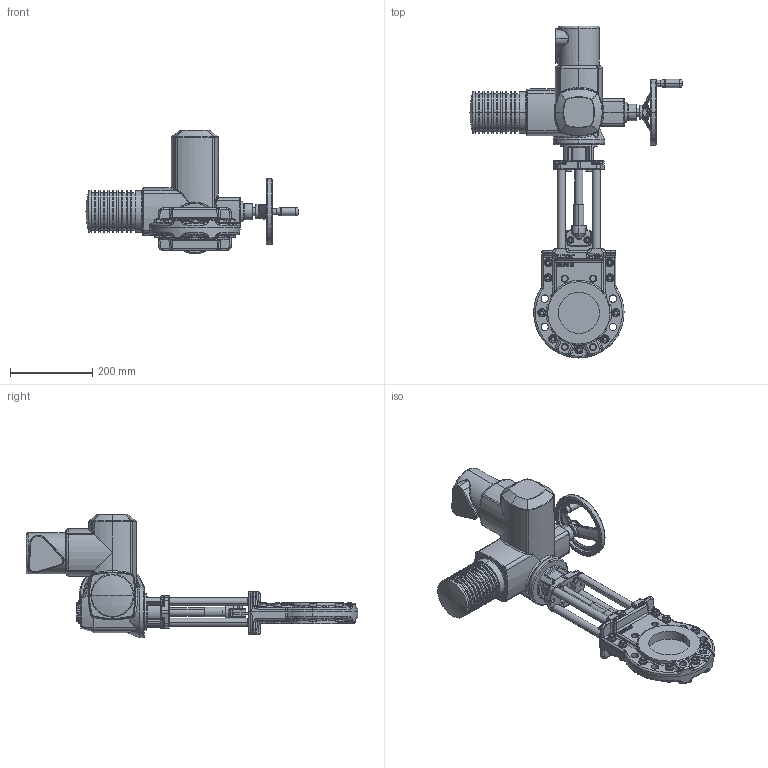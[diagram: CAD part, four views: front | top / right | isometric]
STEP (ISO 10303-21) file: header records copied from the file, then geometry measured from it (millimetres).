
FILE_DESCRIPTION (( 'STEP AP214' ), '1' );
FILE_NAME ('MGE DN 0100 PN10_16 (SA 07.2).STEP', '2015-09-23T08:38:25', ( 'admin' ), ( 'Hewlett-Packard Company' ), 'SwSTEP 2.0', 'SolidWorks 2013', '' );
FILE_SCHEMA (( 'AUTOMOTIVE_DESIGN' ));
Length unit declared in the file: millimetre
Products named in the file (1): MGE DN 0100 PN10_16 (SA 07.2)
Bounding box: 516 x 807.5 x 300.5 mm (x, y, z)
Volume: 9810062.1 mm3; surface area: 751442.9 mm2
Topology: 57 solids, 66 shells, 2841 faces, 6575 edges, 3902 vertices
Faces by surface type: plane 924, cylinder 750, cone 495, bspline 392, torus 223, sphere 57
Entity records: 132422 total; most frequent: CARTESIAN_POINT 38664, ORIENTED_EDGE 12986, DIRECTION 12762, EDGE_CURVE 6493, AXIS2_PLACEMENT_3D 5139, VERTEX_POINT 3902, EDGE_LOOP 3089, UNCERTAINTY_MEASURE_WITH_UNIT 2899
